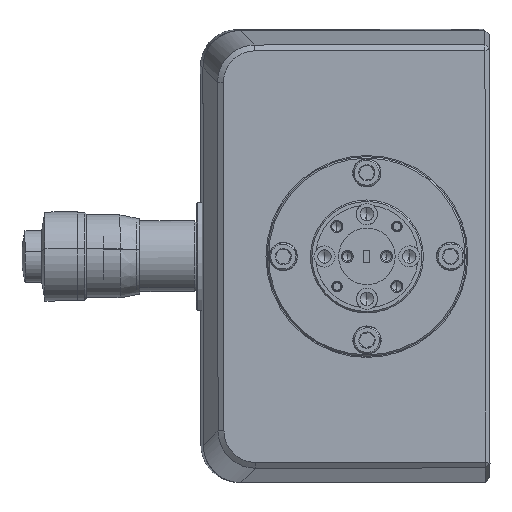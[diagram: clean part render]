
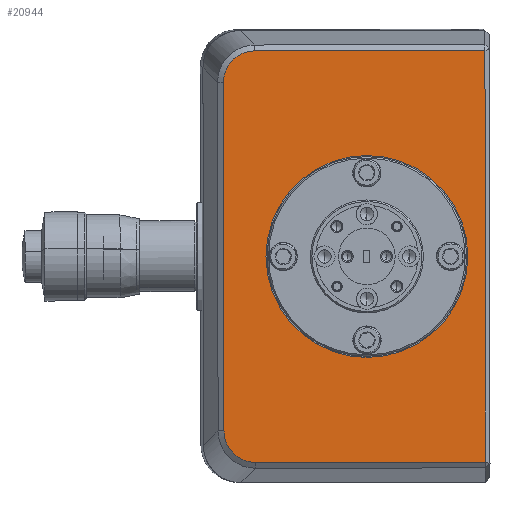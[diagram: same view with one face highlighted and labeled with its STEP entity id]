
A CAD part, left-side view. The second image highlights one B-rep face of the part: STEP entity #20944.
In plain terms, the highlighted planar face has unit normal (-1, -0.002, -0.001).
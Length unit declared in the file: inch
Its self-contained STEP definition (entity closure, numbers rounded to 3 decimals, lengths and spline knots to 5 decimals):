
#76 = ORIENTED_EDGE ( 'NONE', *, *, #76876, .T. ) ;
#682 = CARTESIAN_POINT ( 'NONE',  ( -3.34511, -6.6654, -0.16327 ) ) ;
#4061 = DIRECTION ( 'NONE',  ( -1., -0.002, -0.001 ) ) ;
#4652 = VECTOR ( 'NONE', #92378, 39.37008 ) ;
#4717 = ORIENTED_EDGE ( 'NONE', *, *, #78877, .T. ) ;
#4901 = CARTESIAN_POINT ( 'NONE',  ( -3.34512, -6.6915, -0.05777 ) ) ;
#5875 = CARTESIAN_POINT ( 'NONE',  ( -3.34489, -6.87405, 0.04592 ) ) ;
#7724 = EDGE_LOOP ( 'NONE', ( #4717, #9320, #88404, #13271, #76, #18052 ) ) ;
#7969 = FACE_BOUND ( 'NONE', #70508, .T. ) ;
#8334 = CARTESIAN_POINT ( 'NONE',  ( -3.34347, -6.87759, -2.68423 ) ) ;
#9320 = ORIENTED_EDGE ( 'NONE', *, *, #45626, .T. ) ;
#10403 = AXIS2_PLACEMENT_3D ( 'NONE', #63453, #25442, #94374 ) ;
#10729 = DIRECTION ( 'NONE',  ( -0.001, 0.001, 1. ) ) ;
#11007 = CARTESIAN_POINT ( 'NONE',  ( -3.34391, -6.6684, -2.47558 ) ) ;
#11200 = VERTEX_POINT ( 'NONE', #95740 ) ;
#12426 = CARTESIAN_POINT ( 'NONE',  ( -3.34498, -6.81907, 0.04042 ) ) ;
#12475 = CARTESIAN_POINT ( 'NONE',  ( -3.34351, -6.85004, -2.68427 ) ) ;
#12922 = CARTESIAN_POINT ( 'NONE',  ( -3.34511, -6.70695, -0.03451 ) ) ;
#13011 = CARTESIAN_POINT ( 'NONE',  ( -3.34489, -6.87405, 0.04592 ) ) ;
#13271 = ORIENTED_EDGE ( 'NONE', *, *, #64321, .T. ) ;
#14591 = EDGE_CURVE ( 'NONE', #86859, #41680, #85895, .T. ) ;
#15491 = FACE_OUTER_BOUND ( 'NONE', #7724, .T. ) ;
#15966 = CARTESIAN_POINT ( 'NONE',  ( -3.34451, -6.6669, -1.31942 ) ) ;
#16909 = CARTESIAN_POINT ( 'NONE',  ( -3.34391, -6.6684, -2.47558 ) ) ;
#18002 = CARTESIAN_POINT ( 'NONE',  ( -3.34377, -6.71028, -2.60422 ) ) ;
#18052 = ORIENTED_EDGE ( 'NONE', *, *, #61904, .T. ) ;
#19151 = CARTESIAN_POINT ( 'NONE',  ( -3.34252, -7.48374, -2.68344 ) ) ;
#20944 = ADVANCED_FACE ( 'NONE', ( #15491, #7969 ), #68002, .F. ) ;
#21152 = VERTEX_POINT ( 'NONE', #682 ) ;
#21321 = VECTOR ( 'NONE', #10729, 39.37008 ) ;
#24430 = DIRECTION ( 'NONE',  ( -1., -0.002, -0.001 ) ) ;
#25442 = DIRECTION ( 'NONE',  ( 1., 0.002, 0.001 ) ) ;
#25960 = CARTESIAN_POINT ( 'NONE',  ( -3.34389, -6.66843, -2.50307 ) ) ;
#26365 = CIRCLE ( 'NONE', #82245, 0.67 ) ;
#26450 = VERTEX_POINT ( 'NONE', #65414 ) ;
#26945 = CARTESIAN_POINT ( 'NONE',  ( -3.34356, -6.82259, -2.67887 ) ) ;
#29179 = VECTOR ( 'NONE', #81058, 39.37008 ) ;
#36898 = CARTESIAN_POINT ( 'NONE',  ( -3.34507, -6.74541, 0.00403 ) ) ;
#40292 = VERTEX_POINT ( 'NONE', #13011 ) ;
#40670 = B_SPLINE_CURVE_WITH_KNOTS ( 'NONE', 3,
 ( #5875, #80889, #12426, #73410, #36898, #12922, #4901, #88835, #67404, #51437 ),
 .UNSPECIFIED., .F., .F.,
 ( 4, 2, 2, 2, 4 ),
 ( 0., 0.25, 0.5, 0.75, 1. ),
 .UNSPECIFIED. ) ;
#41680 = VERTEX_POINT ( 'NONE', #62233 ) ;
#45626 = EDGE_CURVE ( 'NONE', #82572, #26450, #56170, .T. ) ;
#47283 = CARTESIAN_POINT ( 'NONE',  ( -3.3418, -8.40197, -1.31717 ) ) ;
#49492 = CARTESIAN_POINT ( 'NONE',  ( -3.34387, -6.6739, -2.53056 ) ) ;
#49747 = VERTEX_POINT ( 'NONE', #16909 ) ;
#51437 = CARTESIAN_POINT ( 'NONE',  ( -3.34511, -6.6654, -0.16327 ) ) ;
#51722 = ORIENTED_EDGE ( 'NONE', *, *, #14591, .F. ) ;
#53383 = B_SPLINE_CURVE_WITH_KNOTS ( 'NONE', 3,
 ( #11007, #25960, #49492, #65468, #18002, #95928, #80942, #26945, #12475, #79966 ),
 .UNSPECIFIED., .F., .F.,
 ( 4, 2, 2, 2, 4 ),
 ( 0., 0.25, 0.5, 0.75, 1. ),
 .UNSPECIFIED. ) ;
#56170 = LINE ( 'NONE', #19151, #89113 ) ;
#61904 = EDGE_CURVE ( 'NONE', #21152, #49747, #91889, .T. ) ;
#62233 = CARTESIAN_POINT ( 'NONE',  ( -3.34337, -7.6161, -0.64819 ) ) ;
#62256 = LINE ( 'NONE', #47283, #21321 ) ;
#63453 = CARTESIAN_POINT ( 'NONE',  ( -3.34323, -7.48197, -1.31837 ) ) ;
#64321 = EDGE_CURVE ( 'NONE', #11200, #40292, #74553, .T. ) ;
#65414 = CARTESIAN_POINT ( 'NONE',  ( -3.34109, -8.40374, -2.68225 ) ) ;
#65468 = CARTESIAN_POINT ( 'NONE',  ( -3.34381, -6.69476, -2.58101 ) ) ;
#67404 = CARTESIAN_POINT ( 'NONE',  ( -3.34512, -6.66536, -0.13572 ) ) ;
#68002 = PLANE ( 'NONE',  #10403 ) ;
#69573 = ORIENTED_EDGE ( 'NONE', *, *, #80010, .F. ) ;
#70508 = EDGE_LOOP ( 'NONE', ( #69573, #51722 ) ) ;
#72603 = DIRECTION ( 'NONE',  ( 0.002, -1., 0.001 ) ) ;
#73162 = AXIS2_PLACEMENT_3D ( 'NONE', #88479, #4061, #89003 ) ;
#73410 = CARTESIAN_POINT ( 'NONE',  ( -3.34504, -6.76862, 0.01956 ) ) ;
#74553 = LINE ( 'NONE', #95532, #29179 ) ;
#76443 = DIRECTION ( 'NONE',  ( -0.001, 0.001, 1. ) ) ;
#76876 = EDGE_CURVE ( 'NONE', #40292, #21152, #40670, .T. ) ;
#77226 = EDGE_CURVE ( 'NONE', #26450, #11200, #62256, .T. ) ;
#78877 = EDGE_CURVE ( 'NONE', #49747, #82572, #53383, .T. ) ;
#79966 = CARTESIAN_POINT ( 'NONE',  ( -3.34347, -6.87759, -2.68423 ) ) ;
#80010 = EDGE_CURVE ( 'NONE', #41680, #86859, #26365, .T. ) ;
#80889 = CARTESIAN_POINT ( 'NONE',  ( -3.34494, -6.84656, 0.04589 ) ) ;
#80942 = CARTESIAN_POINT ( 'NONE',  ( -3.34365, -6.77209, -2.65813 ) ) ;
#81058 = DIRECTION ( 'NONE',  ( -0.002, 1., -0.001 ) ) ;
#81864 = CARTESIAN_POINT ( 'NONE',  ( -3.34267, -7.61784, -1.98819 ) ) ;
#82245 = AXIS2_PLACEMENT_3D ( 'NONE', #98960, #24430, #76443 ) ;
#82572 = VERTEX_POINT ( 'NONE', #8334 ) ;
#85895 = CIRCLE ( 'NONE', #73162, 0.67 ) ;
#86859 = VERTEX_POINT ( 'NONE', #81864 ) ;
#88404 = ORIENTED_EDGE ( 'NONE', *, *, #77226, .T. ) ;
#88479 = CARTESIAN_POINT ( 'NONE',  ( -3.34302, -7.61697, -1.31819 ) ) ;
#88835 = CARTESIAN_POINT ( 'NONE',  ( -3.34513, -6.67076, -0.10827 ) ) ;
#89003 = DIRECTION ( 'NONE',  ( -0.001, 0.001, 1. ) ) ;
#89113 = VECTOR ( 'NONE', #72603, 39.37008 ) ;
#91889 = LINE ( 'NONE', #15966, #4652 ) ;
#92378 = DIRECTION ( 'NONE',  ( 0.001, -0.001, -1. ) ) ;
#94374 = DIRECTION ( 'NONE',  ( 0.001, -0.001, -1. ) ) ;
#95532 = CARTESIAN_POINT ( 'NONE',  ( -3.34394, -7.4802, 0.04671 ) ) ;
#95740 = CARTESIAN_POINT ( 'NONE',  ( -3.34251, -8.4002, 0.0479 ) ) ;
#95928 = CARTESIAN_POINT ( 'NONE',  ( -3.34369, -6.74883, -2.64268 ) ) ;
#98960 = CARTESIAN_POINT ( 'NONE',  ( -3.34302, -7.61697, -1.31819 ) ) ;
